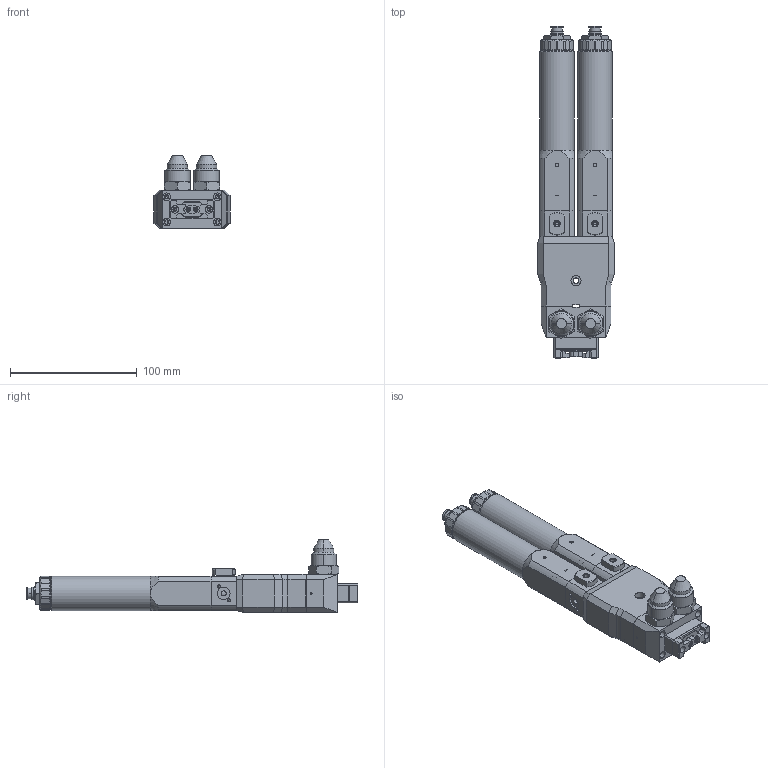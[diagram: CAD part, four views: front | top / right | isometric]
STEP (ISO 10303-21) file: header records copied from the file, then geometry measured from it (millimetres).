
FILE_DESCRIPTION (( 'STEP AP214' ), '1' );
FILE_NAME ('PDPM-050-015-005KA.STEP', '2024-10-11T11:51:27', ( '' ), ( '' ), 'SwSTEP 2.0', 'SolidWorks 2024', '' );
FILE_SCHEMA (( 'AUTOMOTIVE_DESIGN' ));
Length unit declared in the file: millimetre
Products named in the file (1): PDPM-050-015-005KA
Bounding box: 60 x 262 x 57.5 mm (x, y, z)
Volume: 344388.5 mm3; surface area: 88910.3 mm2
Topology: 13 solids, 13 shells, 1455 faces, 3660 edges, 2298 vertices
Faces by surface type: cylinder 586, plane 503, cone 336, bspline 24, torus 6
Full cylindrical faces by diameter (mm): 27 x2
Entity records: 56896 total; most frequent: CARTESIAN_POINT 22561, ORIENTED_EDGE 7196, DIRECTION 7133, EDGE_CURVE 3598, AXIS2_PLACEMENT_3D 2771, VERTEX_POINT 2298, EDGE_LOOP 1632, VECTOR 1591
